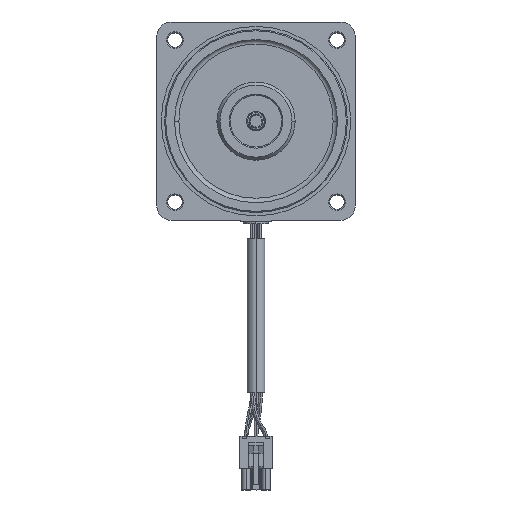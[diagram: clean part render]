
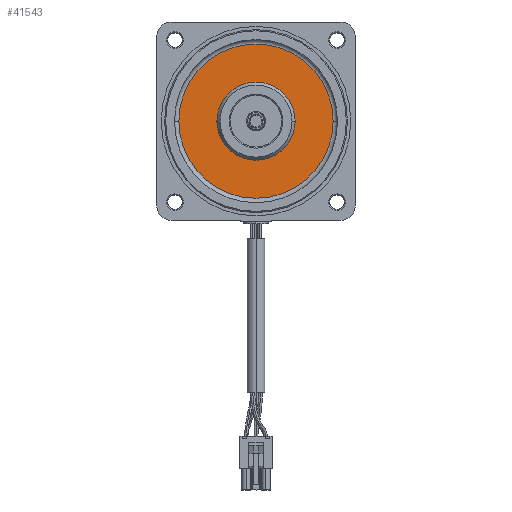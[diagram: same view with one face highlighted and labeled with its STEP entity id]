
A CAD part, top view. The second image highlights one B-rep face of the part: STEP entity #41543.
In plain terms, the highlighted planar face has unit normal (0, 0, 1).
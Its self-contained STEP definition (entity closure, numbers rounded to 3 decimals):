
#39672 = VERTEX_POINT ( 'NONE', #49354 ) ;
#39673 = VERTEX_POINT ( 'NONE', #49353 ) ;
#39677 = EDGE_CURVE ( 'NONE', #39673, #39672, #49348, .T. ) ;
#39682 = EDGE_CURVE ( 'NONE', #39840, #39851, #49338, .T. ) ;
#39840 = VERTEX_POINT ( 'NONE', #49831 ) ;
#39851 = VERTEX_POINT ( 'NONE', #49853 ) ;
#41523 = EDGE_LOOP ( 'NONE', ( #41667, #41668 ) ) ;
#41543 = ADVANCED_FACE ( 'NONE', ( #59307, #59306 ), #59291, .F. ) ;
#41566 = EDGE_CURVE ( 'NONE', #39672, #39673, #59411, .T. ) ;
#41567 = ORIENTED_EDGE ( 'NONE', *, *, #41661, .F. ) ;
#41661 = EDGE_CURVE ( 'NONE', #39851, #39840, #59895, .T. ) ;
#41667 = ORIENTED_EDGE ( 'NONE', *, *, #39677, .T. ) ;
#41668 = ORIENTED_EDGE ( 'NONE', *, *, #41566, .T. ) ;
#41669 = EDGE_LOOP ( 'NONE', ( #41567, #41824 ) ) ;
#41824 = ORIENTED_EDGE ( 'NONE', *, *, #39682, .F. ) ;
#49334 = DIRECTION ( 'NONE',  ( -1., 0., 0. ) ) ;
#49335 = DIRECTION ( 'NONE',  ( 0., 0., 1. ) ) ;
#49336 = CARTESIAN_POINT ( 'NONE',  ( 0., 0., 0. ) ) ;
#49337 = AXIS2_PLACEMENT_3D ( 'NONE', #49336, #49335, #49334 ) ;
#49338 = CIRCLE ( 'NONE', #49337, 17.75 ) ;
#49344 = DIRECTION ( 'NONE',  ( -1., 0., 0. ) ) ;
#49345 = DIRECTION ( 'NONE',  ( 0., 0., 1. ) ) ;
#49346 = CARTESIAN_POINT ( 'NONE',  ( 0., 0., 0. ) ) ;
#49347 = AXIS2_PLACEMENT_3D ( 'NONE', #49346, #49345, #49344 ) ;
#49348 = CIRCLE ( 'NONE', #49347, 35. ) ;
#49353 = CARTESIAN_POINT ( 'NONE',  ( -35., 0., 0. ) ) ;
#49354 = CARTESIAN_POINT ( 'NONE',  ( 35., 0., 0. ) ) ;
#49831 = CARTESIAN_POINT ( 'NONE',  ( 17.75, 0., 0. ) ) ;
#49853 = CARTESIAN_POINT ( 'NONE',  ( -17.75, 0., 0. ) ) ;
#59291 = PLANE ( 'NONE',  #59346 ) ;
#59306 = FACE_BOUND ( 'NONE', #41669, .T. ) ;
#59307 = FACE_OUTER_BOUND ( 'NONE', #41523, .T. ) ;
#59343 = DIRECTION ( 'NONE',  ( -1., 0., 0. ) ) ;
#59344 = DIRECTION ( 'NONE',  ( 0., 0., -1. ) ) ;
#59345 = CARTESIAN_POINT ( 'NONE',  ( -38.5, 38.5, 0. ) ) ;
#59346 = AXIS2_PLACEMENT_3D ( 'NONE', #59345, #59344, #59343 ) ;
#59391 = DIRECTION ( 'NONE',  ( -1., 0., 0. ) ) ;
#59408 = DIRECTION ( 'NONE',  ( 0., 0., 1. ) ) ;
#59409 = CARTESIAN_POINT ( 'NONE',  ( 0., 0., 0. ) ) ;
#59410 = AXIS2_PLACEMENT_3D ( 'NONE', #59409, #59408, #59391 ) ;
#59411 = CIRCLE ( 'NONE', #59410, 35. ) ;
#59812 = CARTESIAN_POINT ( 'NONE',  ( 0., 0., 0. ) ) ;
#59892 = DIRECTION ( 'NONE',  ( -1., 0., 0. ) ) ;
#59893 = DIRECTION ( 'NONE',  ( 0., 0., 1. ) ) ;
#59894 = AXIS2_PLACEMENT_3D ( 'NONE', #59812, #59893, #59892 ) ;
#59895 = CIRCLE ( 'NONE', #59894, 17.75 ) ;
